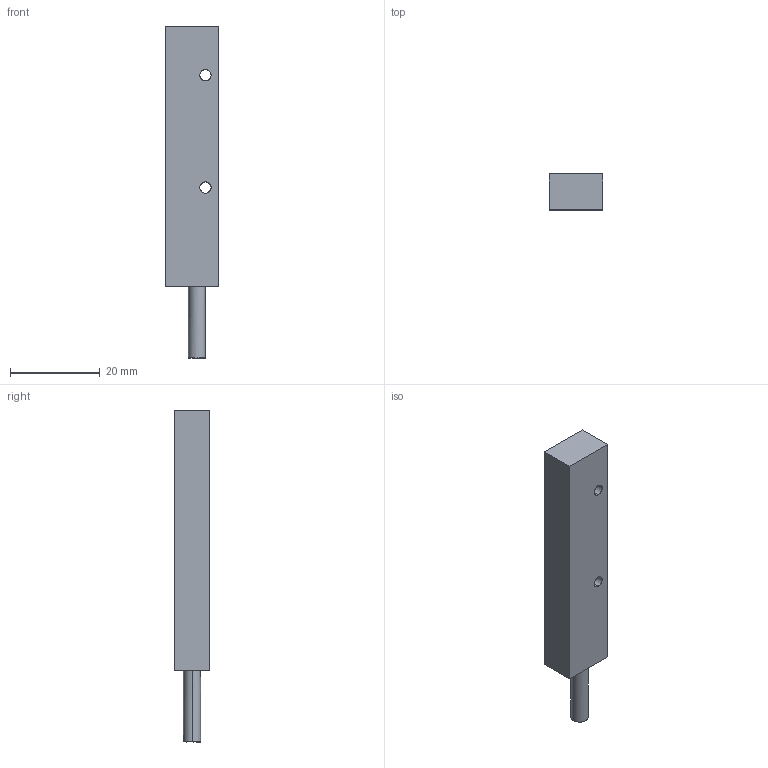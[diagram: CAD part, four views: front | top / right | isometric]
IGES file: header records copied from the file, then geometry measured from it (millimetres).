
Start section: Comment
Global section: file name: FxDM08_Kabel_LED.igs; native system:  By Spatial Corp.; preprocessor: XPlus PS/IGES 3.0; author: Author; organization: Title; date: 20030929.142154; units: inch
Bounding box: 12 x 8 x 74 mm (x, y, z)
Surface area: 2828.8 mm2 (no closed solid volume)
Topology: 0 solids, 0 shells, 21 faces, 94 edges, 94 vertices
Faces by surface type: bspline 21
